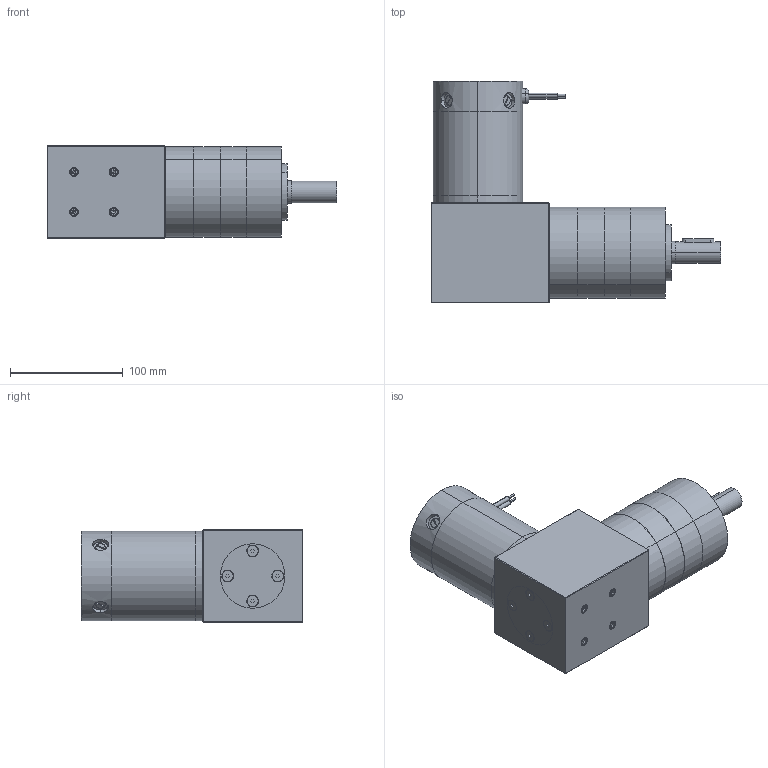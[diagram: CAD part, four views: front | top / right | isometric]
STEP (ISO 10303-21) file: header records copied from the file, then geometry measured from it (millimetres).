
FILE_DESCRIPTION (( 'STEP AP203' ), '1' );
FILE_NAME ('d33455bgra3.step', '2018-12-07T19:39:19', ( '' ), ( '' ), 'SwSTEP 2.0', 'SolidWorks 2017', '' );
FILE_SCHEMA (( 'CONFIG_CONTROL_DESIGN' ));
Length unit declared in the file: inch
Products named in the file (1): d33455bgra3
Bounding box: 256.62 x 196.51 x 82.55 mm (x, y, z)
Volume: 1846123.2 mm3; surface area: 210152.3 mm2
Topology: 27 solids, 27 shells, 1110 faces, 2803 edges, 1796 vertices
Faces by surface type: cylinder 693, plane 294, cone 97, torus 14, bspline 8, sphere 4
Entity records: 52647 total; most frequent: CARTESIAN_POINT 28580, ORIENTED_EDGE 5558, DIRECTION 4514, EDGE_CURVE 2779, VERTEX_POINT 1796, AXIS2_PLACEMENT_3D 1662, EDGE_LOOP 1215, VECTOR 1190
